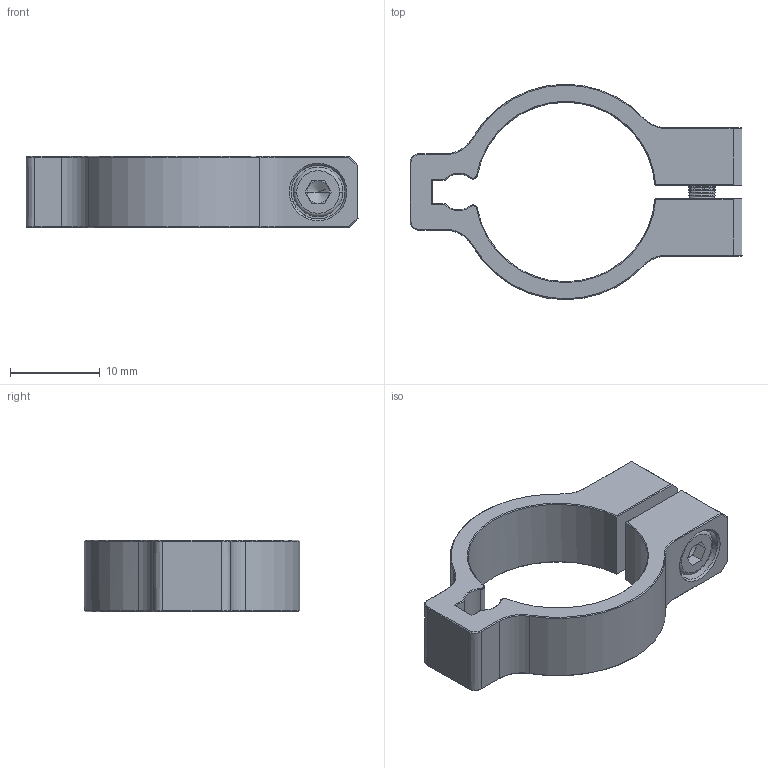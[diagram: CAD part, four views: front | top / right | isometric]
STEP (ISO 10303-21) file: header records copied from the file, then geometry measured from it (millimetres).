
FILE_DESCRIPTION (( 'STEP AP214' ), '1' );
FILE_NAME ('GS-20.STEP', '2019-11-13T03:42:53', ( '微软用户' ), ( '微软中国' ), 'SwSTEP 2.0', 'SolidWorks 2016', '' );
FILE_SCHEMA (( 'AUTOMOTIVE_DESIGN' ));
Length unit declared in the file: millimetre
Products named in the file (1): GS-20
Bounding box: 37 x 24 x 8 mm (x, y, z)
Volume: 2174.9 mm3; surface area: 2446.5 mm2
Topology: 2 solids, 2 shells, 320 faces, 693 edges, 378 vertices
Faces by surface type: cone 168, cylinder 86, plane 53, bspline 11, torus 2
Entity records: 12357 total; most frequent: CARTESIAN_POINT 1827, DIRECTION 1566, ORIENTED_EDGE 1382, EDGE_CURVE 691, AXIS2_PLACEMENT_3D 607, VERTEX_POINT 378, VECTOR 352, LINE 352
